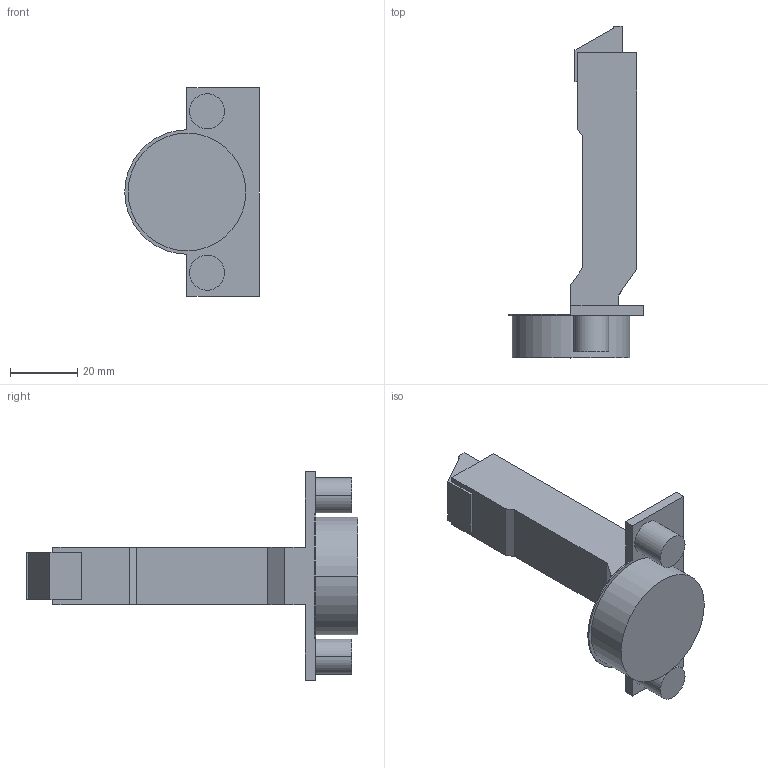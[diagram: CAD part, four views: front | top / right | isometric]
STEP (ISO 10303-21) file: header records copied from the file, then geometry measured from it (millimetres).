
FILE_DESCRIPTION (( 'STEP AP214' ), '1' );
FILE_NAME ('Scharnier T Click-on 120° S_BB, K00_Dübel.step', '2010-12-06T09:58:55', ( 'grass' ), ( '' ), 'SwSTEP 2.0', 'SolidWorks 2010', '' );
FILE_SCHEMA (( 'AUTOMOTIVE_DESIGN' ));
Length unit declared in the file: millimetre
Products named in the file (1): Scharnier T Click-on 120° S_BB, K00_Dübel
Bounding box: 40 x 98.7 x 62 mm (x, y, z)
Volume: 39925 mm3; surface area: 11945.6 mm2
Topology: 1 solids, 1 shells, 52 faces, 126 edges, 84 vertices
Faces by surface type: plane 35, cylinder 17
Entity records: 1558 total; most frequent: DIRECTION 266, CARTESIAN_POINT 263, ORIENTED_EDGE 252, EDGE_CURVE 126, LINE 92, VECTOR 92, AXIS2_PLACEMENT_3D 87, VERTEX_POINT 84
